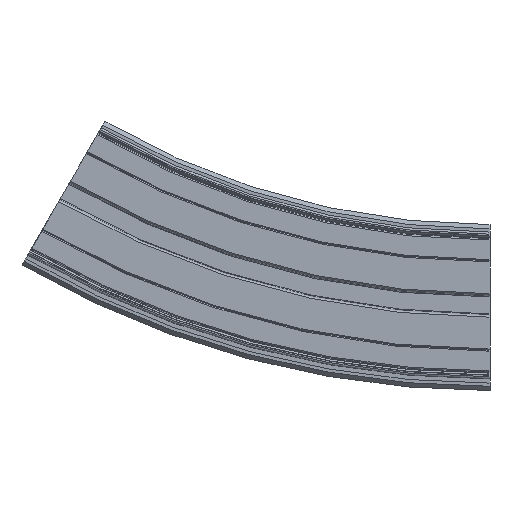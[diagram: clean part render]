
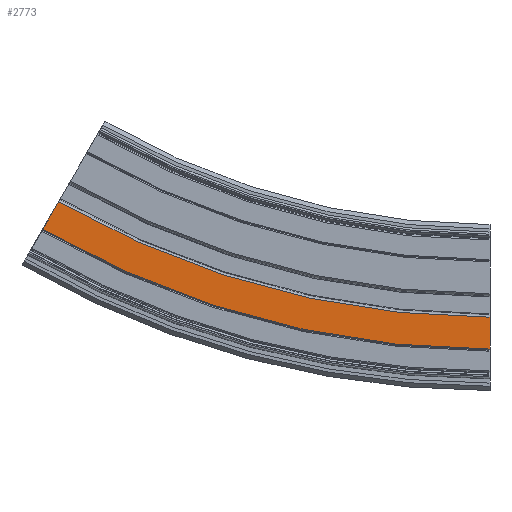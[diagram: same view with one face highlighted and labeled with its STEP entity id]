
A CAD part, left-side view. The second image highlights one B-rep face of the part: STEP entity #2773.
In plain terms, the highlighted planar face has unit normal (-1, 0, 0).
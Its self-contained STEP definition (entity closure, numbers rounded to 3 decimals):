
#267=CIRCLE('',#3020,405.5);
#268=CIRCLE('',#3022,420.5);
#442=FACE_OUTER_BOUND('',#596,.T.);
#596=EDGE_LOOP('',(#2171,#2172,#2173,#2174));
#773=LINE('',#9166,#979);
#774=LINE('',#9168,#980);
#979=VECTOR('',#3622,10.);
#980=VECTOR('',#3623,10.);
#1235=VERTEX_POINT('',#9159);
#1236=VERTEX_POINT('',#9161);
#1237=VERTEX_POINT('',#9165);
#1238=VERTEX_POINT('',#9167);
#1602=EDGE_CURVE('',#1235,#1236,#267,.T.);
#1603=EDGE_CURVE('',#1237,#1235,#773,.T.);
#1604=EDGE_CURVE('',#1238,#1236,#774,.T.);
#1605=EDGE_CURVE('',#1237,#1238,#268,.T.);
#2171=ORIENTED_EDGE('',*,*,#1603,.T.);
#2172=ORIENTED_EDGE('',*,*,#1602,.T.);
#2173=ORIENTED_EDGE('',*,*,#1604,.F.);
#2174=ORIENTED_EDGE('',*,*,#1605,.F.);
#2663=PLANE('',#3021);
#2773=ADVANCED_FACE('',(#442),#2663,.T.);
#3020=AXIS2_PLACEMENT_3D('',#9163,#3618,#3619);
#3021=AXIS2_PLACEMENT_3D('',#9164,#3620,#3621);
#3022=AXIS2_PLACEMENT_3D('',#9169,#3624,#3625);
#3618=DIRECTION('center_axis',(1.,0.,0.));
#3619=DIRECTION('ref_axis',(0.,0.,-1.));
#3620=DIRECTION('center_axis',(-1.,0.,0.));
#3621=DIRECTION('ref_axis',(0.,0.,1.));
#3622=DIRECTION('',(0.,0.,1.));
#3623=DIRECTION('',(0.,-0.5,0.866));
#3624=DIRECTION('center_axis',(1.,0.,0.));
#3625=DIRECTION('ref_axis',(0.,0.,
-1.));
#9159=CARTESIAN_POINT('',(-32.,0.,-5.5));
#9161=CARTESIAN_POINT('',(-32.,202.75,48.827));
#9163=CARTESIAN_POINT('Origin',(-32.,0.,
400.));
#9164=CARTESIAN_POINT('Origin',(-32.,0.,-20.5));
#9165=CARTESIAN_POINT('',(-32.,0.,-20.5));
#9166=CARTESIAN_POINT('',(-32.,0.,-20.5));
#9167=CARTESIAN_POINT('',(-32.,210.25,35.836));
#9168=CARTESIAN_POINT('',(-32.,210.25,35.836));
#9169=CARTESIAN_POINT('Origin',(-32.,0.,400.));
